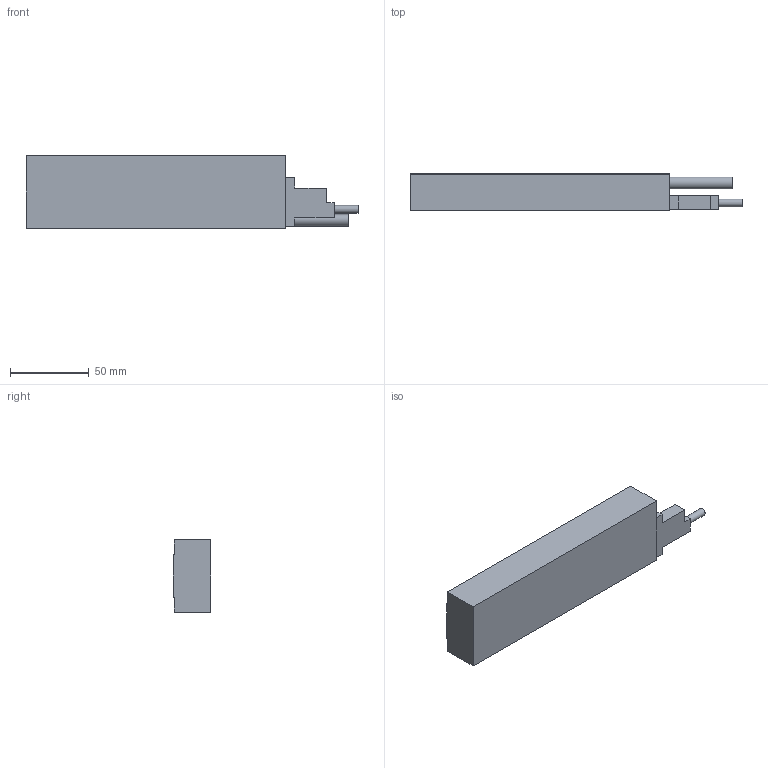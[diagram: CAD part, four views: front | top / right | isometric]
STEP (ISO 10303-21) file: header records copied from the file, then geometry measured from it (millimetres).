
FILE_DESCRIPTION(/* description */ ('STEP AP242 Edition 2','CAx-IF Rec.Pracs.---Representation and Presentation of Product Manufacturing Information (PMI)---4.0---2014-10-13','CAx-IF Rec.Pracs.---3D Tessellated Geometry---0.4---2014-09-14','2;1','CAx-IF Rec.Pracs.---User Defined Attributes---1.5---2016-08-15'),/* implementation_level */ '2;1');
FILE_NAME(/* name */ 'CMI40S',/* time_stamp */ '2026-04-13T00:53:45Z',/* author */ (''),/* organization */ (''),/* preprocessor_version */ 'ST-DEVELOPER v20',/* originating_system */ 'ONSHAPE BY PTC INC, 1.213',/* authorisation */ ' ');
FILE_SCHEMA (('AP242_MANAGED_MODEL_BASED_3D_ENGINEERING_MIM_LF { 1 0 10303 442 3 1 4 }'));
Length unit declared in the file: metre
Products named in the file (1): CMI40S
Bounding box: 210.6 x 23.5 x 46 mm (x, y, z)
Volume: 181501.5 mm3; surface area: 29962.6 mm2
Topology: 1 solids, 2 shells, 78 faces, 190 edges, 121 vertices
Faces by surface type: plane 33, cylinder 27, cone 18
Full cylindrical faces by diameter (mm): 2.5 x2, 3.3 x16, 3.4 x2, 4.9 x2, 7.5 x1
Entity records: 1980 total; most frequent: DIRECTION 342, CARTESIAN_POINT 327, ORIENTED_EDGE 258, FACE_BOUND 142, AXIS2_PLACEMENT_3D 134, EDGE_CURVE 129, EDGE_LOOP 124, VERTEX_POINT 119
